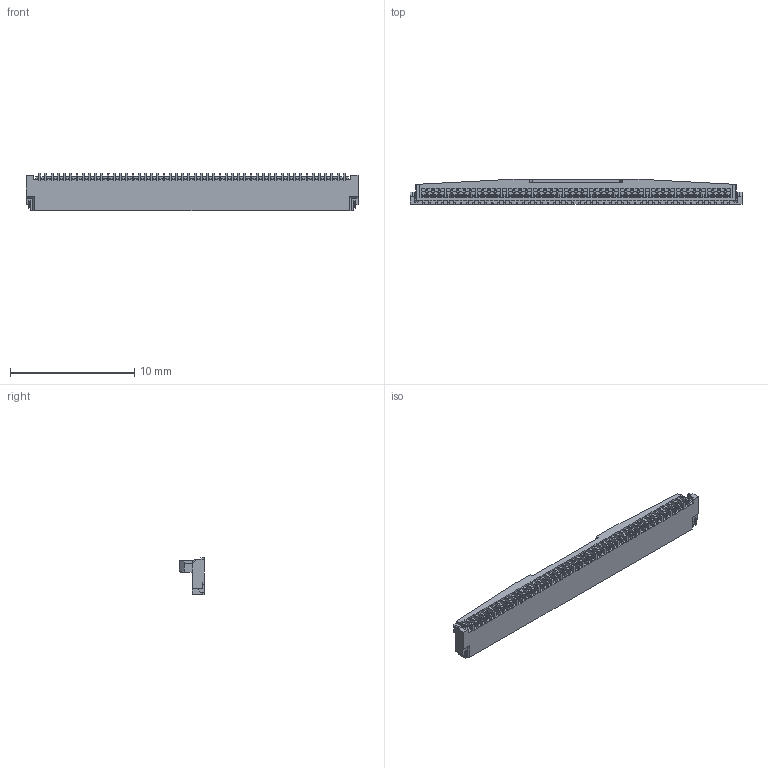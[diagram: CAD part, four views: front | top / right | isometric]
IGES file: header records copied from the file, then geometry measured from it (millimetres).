
Start section: SolidWorks IGES file using analytic representation for surfaces
Global section: file name: Q:\MINIFLEX5-BFNII共有\◆3Dデータ\新しいフォルダー\20586-050E-01 ASSY ACT OPEN IGES R2 ALL.IGS,15HSolidWorks; native system: 2012; preprocessor: SolidWorks 2012; author: ieng2-005; date: 150928.112903; units: millimetre
Bounding box: 26.7 x 2.02 x 3 mm (x, y, z)
Surface area: 287.1 mm2 (no closed solid volume)
Topology: 0 solids, 0 shells, 1646 faces, 11070 edges, 11068 vertices
Faces by surface type: bspline 1233, revolution 413
